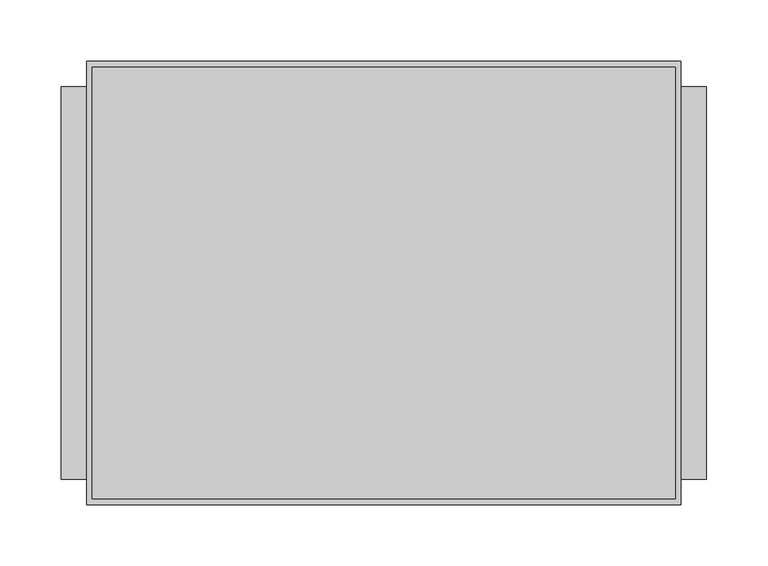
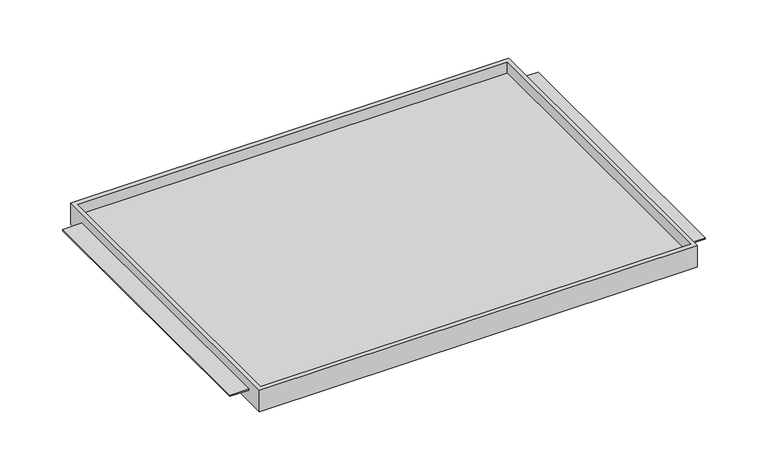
"""IFC4 building model written with IfcOpenShell, lengths in millimetres: furniture geometry."""

from ifc_helpers import new_model, si_unit, origin, place, context, project, spatial, faceted_brep, source, transform, mapped, element, save


def furniture_66465d9f(model_context):
    return source(origin(), model_context, "Body", "Brep", [
        faceted_brep([(-242.7689646, -180.975, 1289.05), (242.7689646, -180.975, 1289.05), (242.7689646, -180.975, 1314.45), (-242.7689646, -180.975, 1314.45), (-242.7689646, 180.975, 1289.05), (-242.7689646, 180.975, 1314.45), (242.7689646, 180.975, 1314.45), (242.7689646, 180.975, 1289.05), (242.7689646, -160.3374879, 1303.3502), (242.7689646, 160.3374879, 1303.3502), (242.7689646, 160.3374879, 1301.75), (242.7689646, -160.3374879, 1301.75), (238.125, -176.2125, 1314.45), (-238.125, -176.2125, 1314.45), (-238.125, 175.91278, 1314.45), (238.125, 175.91278, 1314.45), (-242.7689646, 160.3374879, 1303.3502), (-242.7689646, -160.3374879, 1303.3502), (-242.7689646, -160.3374879, 1301.75), (-242.7689646, 160.3374879, 1301.75), (-238.125, -176.2125, 1301.75), (238.125, -176.2125, 1301.75), (238.125, 175.91278, 1301.75), (-238.125, 175.91278, 1301.75), (-263.525, 160.3374879, 1303.3502), (-263.525, -160.3374879, 1303.3502), (263.525, -160.3374879, 1303.3502), (263.525, 160.3374879, 1303.3502), (-263.525, -160.3374879, 1301.75), (-263.525, 160.3374879, 1301.75), (263.525, -160.3374879, 1301.75), (263.525, 160.3374879, 1301.75)], [[[0, 1, 2, 3]], [[4, 5, 6, 7]], [[1, 0, 4, 7]], [[2, 1, 7, 6], [8, 9, 10, 11]], [[3, 2, 6, 5], [12, 13, 14, 15]], [[0, 3, 5, 4], [16, 17, 18, 19]], [[20, 21, 22, 23]], [[21, 20, 13, 12]], [[22, 21, 12, 15]], [[23, 22, 15, 14]], [[20, 23, 14, 13]], [[16, 24, 25, 17]], [[26, 27, 9, 8]], [[18, 28, 29, 19]], [[30, 11, 10, 31]], [[24, 16, 19, 29]], [[25, 24, 29, 28]], [[17, 25, 28, 18]], [[27, 26, 30, 31]], [[9, 27, 31, 10]], [[26, 8, 11, 30]]]),
    ])


if __name__ == "__main__":
    model = new_model("IFC4")
    model_context = context("Model", 3, world=origin())
    ifc_project = project(units=[si_unit("LENGTHUNIT", "METRE", prefix="MILLI")], contexts=[model_context])
    site = spatial("IfcSite", under=ifc_project)
    building = spatial("IfcBuilding", under=site)
    placement = place(None, origin())
    furniture_shape = furniture_66465d9f(model_context)
    element("IfcFurniture", 1, ObjectType="HermanMiller_CoStruc_CO203_CTrayShelf : 14\"D x 20\"W", at=placement, inside=building, context=model_context, shape_type="MappedRepresentation", body=[
        mapped(furniture_shape, transform((0.0, 0.0, 0.0), x_axis=(1.0, 0.0, 0.0), y_axis=(0.0, 1.0, 0.0), z_axis=(0.0, 0.0, 1.0))),
    ])
    save(model, "model.ifc")
